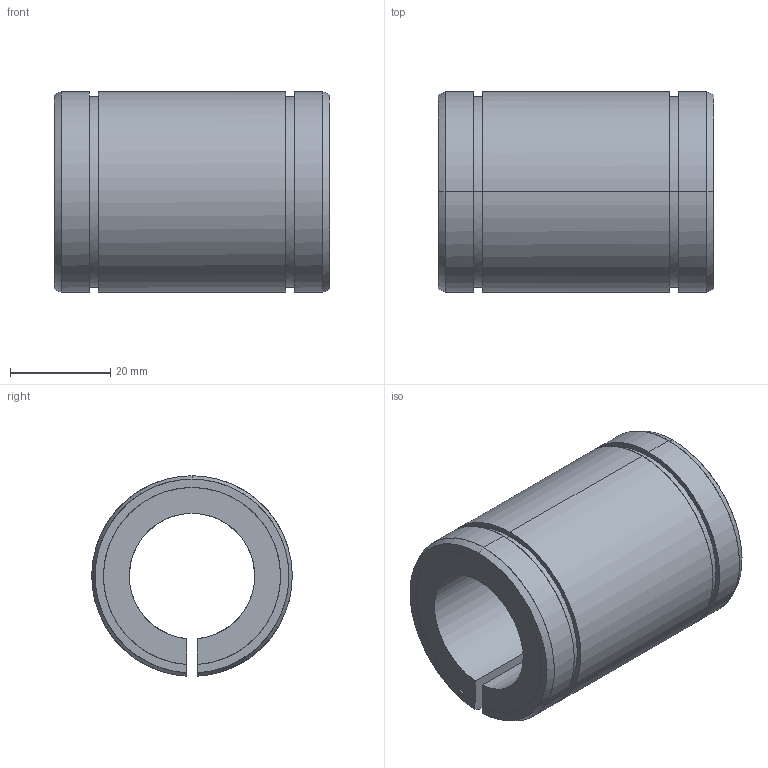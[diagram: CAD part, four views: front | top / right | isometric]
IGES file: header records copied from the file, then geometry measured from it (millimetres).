
Global section: file name: No Iges File Name specified; native system: AutoDesk Inventor R10; preprocessor: AutoDesk Inventor Iges Exporter R10; author: No Author specified; organization: No Organization specified; date: 20101208.100720; units: millimetre
Bounding box: 55 x 39.99 x 39.98 mm (x, y, z)
Surface area: 13664.2 mm2 (no closed solid volume)
Topology: 0 solids, 0 shells, 30 faces, 256 edges, 256 vertices
Faces by surface type: bspline 30
